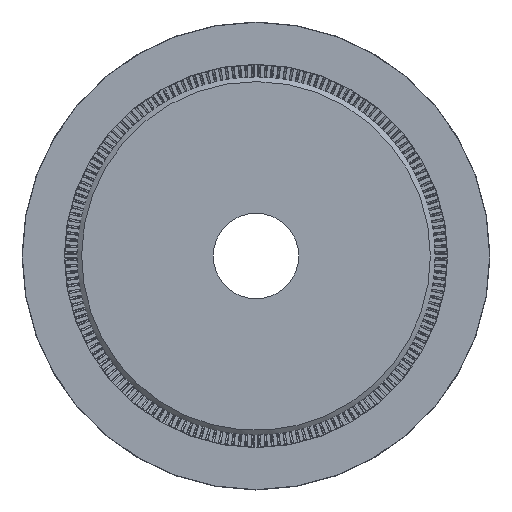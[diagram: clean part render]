
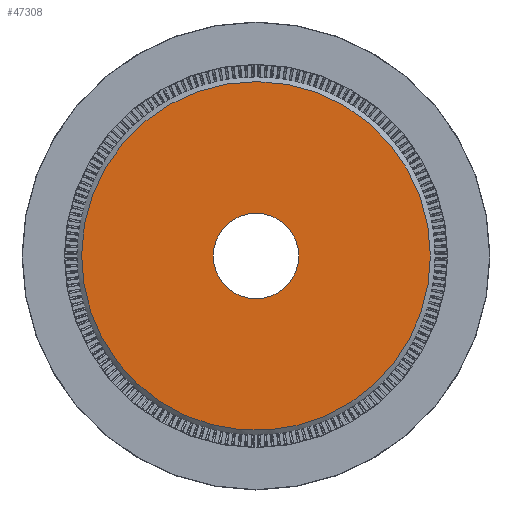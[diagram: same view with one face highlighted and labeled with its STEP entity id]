
A CAD part, top view. The second image highlights one B-rep face of the part: STEP entity #47308.
In plain terms, the highlighted planar face has unit normal (0, 0, 1).
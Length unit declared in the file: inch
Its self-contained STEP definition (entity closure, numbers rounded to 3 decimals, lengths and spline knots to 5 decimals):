
#2149 = ORIENTED_EDGE ( 'NONE', *, *, #35246, .T. ) ;
#5156 = CARTESIAN_POINT ( 'NONE',  ( 4.125, 0., -0.25 ) ) ;
#6771 = AXIS2_PLACEMENT_3D ( 'NONE', #21911, #64001, #27978 ) ;
#8686 = CARTESIAN_POINT ( 'NONE',  ( 0., 0., -0.25 ) ) ;
#10090 = DIRECTION ( 'NONE',  ( 1., 0., 0. ) ) ;
#14791 = DIRECTION ( 'NONE',  ( 1., 0., 0. ) ) ;
#19163 = EDGE_LOOP ( 'NONE', ( #38046 ) ) ;
#21911 = CARTESIAN_POINT ( 'NONE',  ( 0., 0., -0.25 ) ) ;
#24028 = EDGE_CURVE ( 'NONE', #43686, #43686, #58928, .T. ) ;
#25753 = FACE_BOUND ( 'NONE', #19163, .T. ) ;
#27768 = CARTESIAN_POINT ( 'NONE',  ( 0., 2.59255, -0.25 ) ) ;
#27978 = DIRECTION ( 'NONE',  ( 1., 0., 0. ) ) ;
#30682 = AXIS2_PLACEMENT_3D ( 'NONE', #8686, #50850, #14791 ) ;
#31020 = CIRCLE ( 'NONE', #6771, 16.84061 ) ;
#35246 = EDGE_CURVE ( 'NONE', #73820, #73820, #31020, .T. ) ;
#37061 = AXIS2_PLACEMENT_3D ( 'NONE', #27768, #46168, #10090 ) ;
#38046 = ORIENTED_EDGE ( 'NONE', *, *, #24028, .T. ) ;
#40147 = PLANE ( 'NONE',  #37061 ) ;
#43686 = VERTEX_POINT ( 'NONE', #5156 ) ;
#46168 = DIRECTION ( 'NONE',  ( 0., 0., 1. ) ) ;
#47308 = ADVANCED_FACE ( 'NONE', ( #25753, #73798 ), #40147, .T. ) ;
#50850 = DIRECTION ( 'NONE',  ( 0., 0., -1. ) ) ;
#51507 = EDGE_LOOP ( 'NONE', ( #2149 ) ) ;
#53364 = CARTESIAN_POINT ( 'NONE',  ( 16.84061, 0., -0.25 ) ) ;
#58928 = CIRCLE ( 'NONE', #30682, 4.125 ) ;
#64001 = DIRECTION ( 'NONE',  ( 0., 0., 1. ) ) ;
#73798 = FACE_OUTER_BOUND ( 'NONE', #51507, .T. ) ;
#73820 = VERTEX_POINT ( 'NONE', #53364 ) ;
